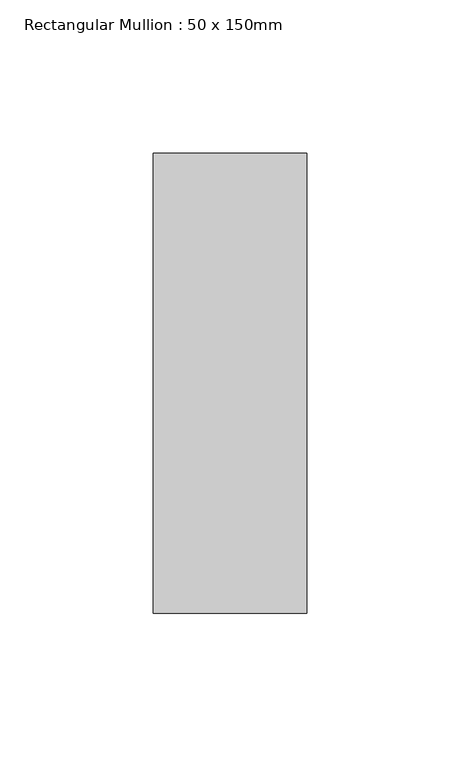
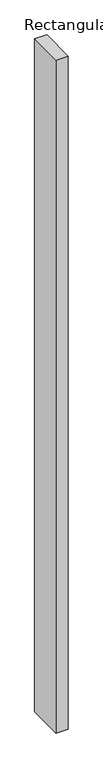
"""IFC4 building model written with IfcOpenShell, lengths in millimetres: member geometry, Rectangular Mullion : 50 x 150mm."""

from ifc_helpers import new_model, si_unit, frame, origin, place, context, project, spatial, polyline, outline, extrude, source, transform, mapped, element, save


def rectangular_mullion_50_x_150mm_f1d86669(model_context):
    return source(origin(), model_context, "Body", "SweptSolid", [
        extrude(outline(polyline([(25.0, 75.0), (25.0, -75.0), (-25.0, -75.0), (-25.0, 75.0), (25.0, 75.0)])), frame((0.0, 0.0, -2895.0), z_axis=(0.0, 0.0, 1.0), x_axis=(1.0, 0.0, 0.0)), (0.0, 0.0, 1.0), 2895.0),
    ])


if __name__ == "__main__":
    model = new_model("IFC4")
    model_context = context("Model", 3, world=origin())
    ifc_project = project(units=[si_unit("LENGTHUNIT", "METRE", prefix="MILLI")], contexts=[model_context])
    site = spatial("IfcSite", under=ifc_project)
    building = spatial("IfcBuilding", under=site)
    placement = place(None, origin())
    rectangular_mullion_50_x_150mm_shape = rectangular_mullion_50_x_150mm_f1d86669(model_context)
    element("IfcMember", 1, ObjectType="Rectangular Mullion : 50 x 150mm", at=placement, inside=building, context=model_context, shape_type="MappedRepresentation", body=[
        mapped(rectangular_mullion_50_x_150mm_shape, transform((0.0, 0.0, 0.0), x_axis=(1.0, 0.0, 0.0), y_axis=(0.0, 1.0, 0.0), z_axis=(0.0, 0.0, 1.0))),
    ])
    save(model, "model.ifc")
